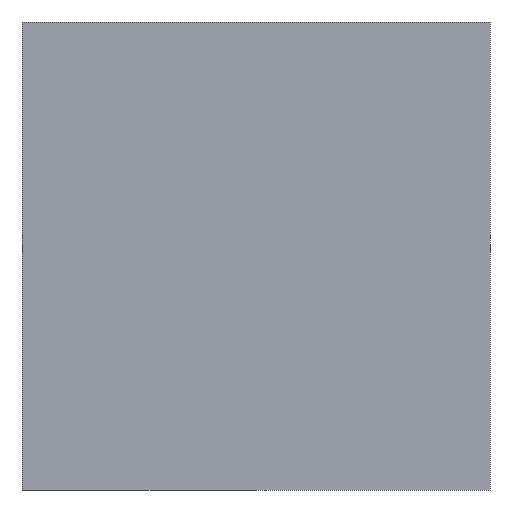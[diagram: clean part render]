
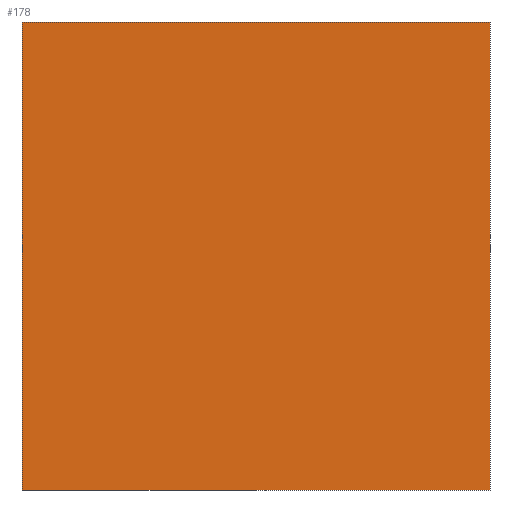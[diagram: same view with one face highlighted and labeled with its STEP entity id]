
A CAD part, left-side view. The second image highlights one B-rep face of the part: STEP entity #178.
In plain terms, the highlighted planar face has unit normal (-1, 0, 0).
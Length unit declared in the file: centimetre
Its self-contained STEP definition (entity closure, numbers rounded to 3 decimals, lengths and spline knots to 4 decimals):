
#4 = AXIS2_PLACEMENT_3D ( 'NONE', #370, #132, #18 ) ;
#18 = DIRECTION ( 'NONE',  ( 0., 0., -1. ) ) ;
#23 = ORIENTED_EDGE ( 'NONE', *, *, #354, .F. ) ;
#47 = FACE_OUTER_BOUND ( 'NONE', #298, .T. ) ;
#48 = VERTEX_POINT ( 'NONE', #325 ) ;
#57 = CARTESIAN_POINT ( 'NONE',  ( 0., 0., 1000. ) ) ;
#70 = DIRECTION ( 'NONE',  ( 0., -1., 0. ) ) ;
#94 = ORIENTED_EDGE ( 'NONE', *, *, #116, .T. ) ;
#116 = EDGE_CURVE ( 'NONE', #48, #255, #497, .T. ) ;
#117 = ORIENTED_EDGE ( 'NONE', *, *, #327, .F. ) ;
#124 = CARTESIAN_POINT ( 'NONE',  ( 0., 1000., 1000. ) ) ;
#127 = EDGE_CURVE ( 'NONE', #286, #48, #299, .T. ) ;
#128 = DIRECTION ( 'NONE',  ( 0., -1., 0. ) ) ;
#132 = DIRECTION ( 'NONE',  ( 1., 0., 0. ) ) ;
#178 = ADVANCED_FACE ( 'NONE', ( #47 ), #205, .F. ) ;
#179 = CARTESIAN_POINT ( 'NONE',  ( 0., 1000., 1000. ) ) ;
#182 = VECTOR ( 'NONE', #128, 100. ) ;
#205 = PLANE ( 'NONE',  #4 ) ;
#218 = DIRECTION ( 'NONE',  ( 0., 0., -1. ) ) ;
#247 = VERTEX_POINT ( 'NONE', #349 ) ;
#255 = VERTEX_POINT ( 'NONE', #304 ) ;
#286 = VERTEX_POINT ( 'NONE', #179 ) ;
#298 = EDGE_LOOP ( 'NONE', ( #94, #23, #117, #409 ) ) ;
#299 = LINE ( 'NONE', #124, #472 ) ;
#304 = CARTESIAN_POINT ( 'NONE',  ( 0., 0., 0. ) ) ;
#305 = LINE ( 'NONE', #57, #337 ) ;
#325 = CARTESIAN_POINT ( 'NONE',  ( 0., 1000., 0. ) ) ;
#327 = EDGE_CURVE ( 'NONE', #286, #247, #499, .T. ) ;
#337 = VECTOR ( 'NONE', #218, 100. ) ;
#349 = CARTESIAN_POINT ( 'NONE',  ( 0., 0., 1000. ) ) ;
#354 = EDGE_CURVE ( 'NONE', #247, #255, #305, .T. ) ;
#370 = CARTESIAN_POINT ( 'NONE',  ( 0., 1000., 1000. ) ) ;
#409 = ORIENTED_EDGE ( 'NONE', *, *, #127, .T. ) ;
#447 = VECTOR ( 'NONE', #70, 100. ) ;
#448 = CARTESIAN_POINT ( 'NONE',  ( 0., 1000., 0. ) ) ;
#456 = DIRECTION ( 'NONE',  ( 0., 0., -1. ) ) ;
#472 = VECTOR ( 'NONE', #456, 100. ) ;
#497 = LINE ( 'NONE', #448, #182 ) ;
#499 = LINE ( 'NONE', #506, #447 ) ;
#506 = CARTESIAN_POINT ( 'NONE',  ( 0., 1000., 1000. ) ) ;
